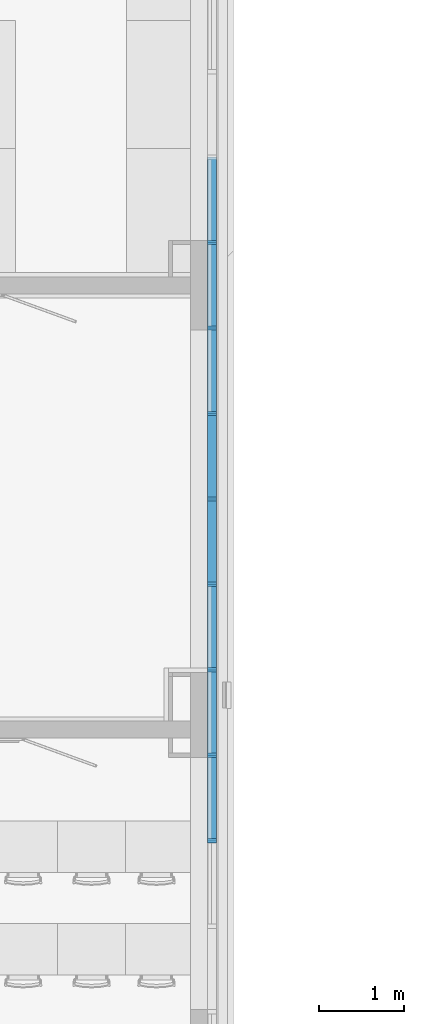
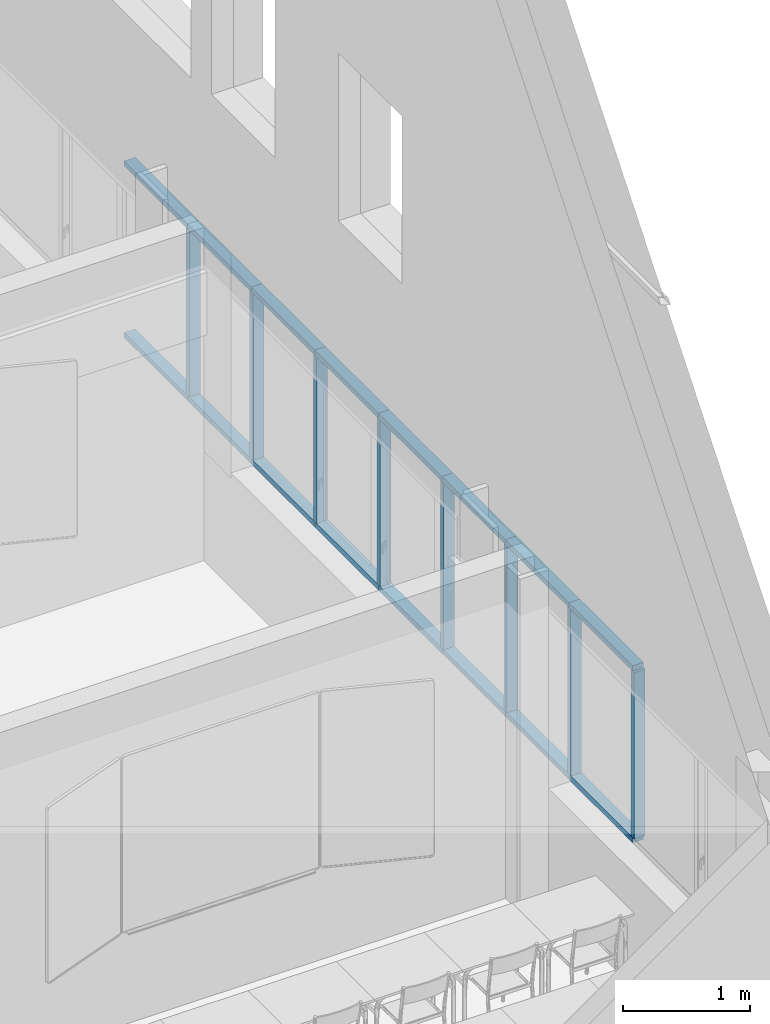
# One storey, part 16 of 137: 24 members, 1 element without a shape of its own.
"""IFC2X3 building model written with IfcOpenShell, lengths in centimetres."""

from ifc_helpers import new_model, entity, si_unit, converted_unit, derived_unit, direction, frame, frame_2d, origin, origin_2d_with_axis, place, context, subcontext, project, spatial, rectangle, extrude, material, type_object, element, aggregate, save


model = new_model("IFC2X3")

# Units and contexts
model_context = context("Model", 3, precision=0.001, world=origin(), true_north=direction((6.12303176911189e-17, 1.0)))
body_context = subcontext(model_context, "Body", "Model", "MODEL_VIEW")
ifc_project = project(units=[si_unit("LENGTHUNIT", "METRE", prefix="CENTI"), si_unit("AREAUNIT", "SQUARE_METRE"), si_unit("VOLUMEUNIT", "CUBIC_METRE"), converted_unit("PLANEANGLEUNIT", "DEGREE", entity("IfcRatioMeasure", 0.0174532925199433), si_unit("PLANEANGLEUNIT", "RADIAN"), dimensions=[0, 0, 0, 0, 0, 0, 0]), si_unit("MASSUNIT", "GRAM", prefix="KILO"), si_unit("TIMEUNIT", "SECOND"), si_unit("FREQUENCYUNIT", "HERTZ"), si_unit("THERMODYNAMICTEMPERATUREUNIT", "DEGREE_CELSIUS"), derived_unit("THERMALTRANSMITTANCEUNIT", [(si_unit("MASSUNIT", "GRAM", prefix="KILO"), 1), (si_unit("THERMODYNAMICTEMPERATUREUNIT", "KELVIN"), -1), (si_unit("TIMEUNIT", "SECOND"), -3)]), derived_unit("VOLUMETRICFLOWRATEUNIT", [(si_unit("LENGTHUNIT", "METRE"), 3), (si_unit("TIMEUNIT", "SECOND"), -1)]), si_unit("ELECTRICCURRENTUNIT", "AMPERE"), si_unit("ELECTRICVOLTAGEUNIT", "VOLT"), si_unit("POWERUNIT", "WATT"), si_unit("FORCEUNIT", "NEWTON", prefix="KILO"), si_unit("ILLUMINANCEUNIT", "LUX"), si_unit("LUMINOUSFLUXUNIT", "LUMEN"), si_unit("LUMINOUSINTENSITYUNIT", "CANDELA"), derived_unit("USERDEFINED", [(si_unit("MASSUNIT", "GRAM", prefix="KILO"), -1), (si_unit("LENGTHUNIT", "METRE"), -2), (si_unit("TIMEUNIT", "SECOND"), 3), (si_unit("LUMINOUSFLUXUNIT", "LUMEN"), 1)]), derived_unit("LINEARVELOCITYUNIT", [(si_unit("LENGTHUNIT", "METRE"), 1), (si_unit("TIMEUNIT", "SECOND"), -1)]), si_unit("PRESSUREUNIT", "PASCAL"), derived_unit("USERDEFINED", [(si_unit("LENGTHUNIT", "METRE"), -2), (si_unit("MASSUNIT", "GRAM", prefix="KILO"), 1), (si_unit("TIMEUNIT", "SECOND"), -2)])], contexts=[model_context])

# Site, building, storey
site_placement = place(None, frame((8.62739174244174, -249.285249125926, 0.0)))
site = spatial("IfcSite", under=ifc_project, at=site_placement, Name="Default", CompositionType="ELEMENT")
building_placement = place(site_placement, origin())
building = spatial("IfcBuilding", under=site, at=building_placement, CompositionType="ELEMENT")
storey_placement = place(building_placement, origin())
storey = spatial("IfcBuildingStorey", under=building, at=storey_placement, Name="RDC", CompositionType="ELEMENT", Elevation=-8.82465566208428e-11)

# Curtain wall, members
curtain_wall_type = type_object("IfcCurtainWallType", Name="Mur-rideau:Simple panneau", PredefinedType="NOTDEFINED")
curtain_wall_placement = place(storey_placement, origin())
curtain_wall = element("IfcCurtainWall", 1, at=curtain_wall_placement, inside=storey, type_object=curtain_wall_type, Name="Mur-rideau:Simple panneau", ObjectType="Mur-rideau:Simple panneau")
ifc_material = material(Name="Plastique, blanc opaque")
member_1_placement = place(curtain_wall_placement, origin())
member_1 = element("IfcMember", 2, at=member_1_placement, material=ifc_material, Name="Mur-rideau:Simple panneau", ObjectType="Mur-rideau:Simple panneau", context=body_context, shape_type="SweptSolid", body=[
    extrude(rectangle(XDim=5.0, YDim=9.99999999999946, at=frame_2d((2.70894418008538e-14, 0.0), x_axis=(1.0, 0.0))), frame((4003.90482781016, 6154.9802081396, 277.500000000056), z_axis=(0.0, 1.0, 0.0), x_axis=(0.0, 0.0, -1.0)), (0.0, 0.0, 1.0), 99.9999999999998),
])
member_2_placement = place(curtain_wall_placement, origin())
member_2 = element("IfcMember", 3, at=member_2_placement, material=ifc_material, Name="Mur-rideau:Simple panneau", ObjectType="Mur-rideau:Simple panneau", context=body_context, shape_type="SweptSolid", body=[
    extrude(rectangle(XDim=5.0, YDim=9.99999999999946, at=frame_2d((2.70894418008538e-14, 0.0), x_axis=(1.0, 0.0))), frame((4003.90482781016, 6054.9802081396, 277.500000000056), z_axis=(0.0, 1.0, 0.0), x_axis=(0.0, 0.0, -1.0)), (0.0, 0.0, 1.0), 99.9999999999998),
])
member_3_placement = place(curtain_wall_placement, origin())
member_3 = element("IfcMember", 4, at=member_3_placement, material=ifc_material, Name="Mur-rideau:Simple panneau", ObjectType="Mur-rideau:Simple panneau", context=body_context, shape_type="SweptSolid", body=[
    extrude(rectangle(XDim=5.0, YDim=9.99999999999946, at=frame_2d((2.70894418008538e-14, 0.0), x_axis=(1.0, 0.0))), frame((4003.90482781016, 5954.9802081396, 277.500000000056), z_axis=(0.0, 1.0, 0.0), x_axis=(0.0, 0.0, -1.0)), (0.0, 0.0, 1.0), 99.9999999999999),
])
member_4_placement = place(curtain_wall_placement, origin())
member_4 = element("IfcMember", 5, at=member_4_placement, material=ifc_material, Name="Mur-rideau:Simple panneau", ObjectType="Mur-rideau:Simple panneau", context=body_context, shape_type="SweptSolid", body=[
    extrude(rectangle(XDim=5.0, YDim=9.99999999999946, at=frame_2d((2.70894418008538e-14, 0.0), x_axis=(1.0, 0.0))), frame((4003.90482781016, 5854.9802081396, 277.500000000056), z_axis=(0.0, 1.0, 0.0), x_axis=(0.0, 0.0, -1.0)), (0.0, 0.0, 1.0), 99.9999999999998),
])
member_5_placement = place(curtain_wall_placement, origin())
member_5 = element("IfcMember", 6, at=member_5_placement, material=ifc_material, Name="Mur-rideau:Simple panneau", ObjectType="Mur-rideau:Simple panneau", context=body_context, shape_type="SweptSolid", body=[
    extrude(rectangle(XDim=5.0, YDim=9.99999999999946, at=frame_2d((2.70894418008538e-14, 0.0), x_axis=(1.0, 0.0))), frame((4003.90482781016, 5754.9802081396, 277.500000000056), z_axis=(0.0, 1.0, 0.0), x_axis=(0.0, 0.0, -1.0)), (0.0, 0.0, 1.0), 99.9999999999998),
])
member_6_placement = place(curtain_wall_placement, origin())
member_6 = element("IfcMember", 7, at=member_6_placement, material=ifc_material, Name="Mur-rideau:Simple panneau", ObjectType="Mur-rideau:Simple panneau", context=body_context, shape_type="SweptSolid", body=[
    extrude(rectangle(XDim=5.0, YDim=9.99999999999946, at=frame_2d((2.70894418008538e-14, 0.0), x_axis=(1.0, 0.0))), frame((4003.90482781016, 5654.9802081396, 277.500000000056), z_axis=(0.0, 1.0, 0.0), x_axis=(0.0, 0.0, -1.0)), (0.0, 0.0, 1.0), 99.9999999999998),
])
member_7_placement = place(curtain_wall_placement, origin())
member_7 = element("IfcMember", 8, at=member_7_placement, material=ifc_material, Name="Mur-rideau:Simple panneau", ObjectType="Mur-rideau:Simple panneau", context=body_context, shape_type="SweptSolid", body=[
    extrude(rectangle(XDim=5.0, YDim=9.99999999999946, at=frame_2d((2.70894418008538e-14, 0.0), x_axis=(1.0, 0.0))), frame((4003.90482781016, 5554.9802081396, 277.500000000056), z_axis=(0.0, 1.0, 0.0), x_axis=(0.0, 0.0, -1.0)), (0.0, 0.0, 1.0), 99.9999999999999),
])
member_8_placement = place(curtain_wall_placement, origin())
member_8 = element("IfcMember", 9, at=member_8_placement, material=ifc_material, Name="Mur-rideau:Simple panneau", ObjectType="Mur-rideau:Simple panneau", context=body_context, shape_type="SweptSolid", body=[
    extrude(rectangle(XDim=5.0, YDim=9.99999999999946, at=frame_2d((2.70894418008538e-14, 0.0), x_axis=(1.0, 0.0))), frame((4003.90482781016, 5454.9802081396, 277.500000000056), z_axis=(0.0, 1.0, 0.0), x_axis=(0.0, 0.0, -1.0)), (0.0, 0.0, 1.0), 99.9999999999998),
])
member_9_placement = place(curtain_wall_placement, origin())
member_9 = element("IfcMember", 10, at=member_9_placement, material=ifc_material, Name="Mur-rideau:Simple panneau", ObjectType="Mur-rideau:Simple panneau", context=body_context, shape_type="SweptSolid", body=[
    extrude(rectangle(XDim=9.99999999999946, YDim=5.0000000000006, at=origin_2d_with_axis()), frame((4003.90482781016, 6154.9802081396, 115.0), z_axis=(0.0, 0.0, 1.0), x_axis=(-1.0, 0.0, 0.0)), (0.0, 0.0, 1.0), 160.0),
])
member_10_placement = place(curtain_wall_placement, origin())
member_10 = element("IfcMember", 11, at=member_10_placement, material=ifc_material, Name="Mur-rideau:Simple panneau", ObjectType="Mur-rideau:Simple panneau", context=body_context, shape_type="SweptSolid", body=[
    extrude(rectangle(XDim=9.99999999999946, YDim=5.0000000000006, at=origin_2d_with_axis()), frame((4003.90482781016, 6054.9802081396, 115.0), z_axis=(0.0, 0.0, 1.0), x_axis=(-1.0, 0.0, 0.0)), (0.0, 0.0, 1.0), 160.0),
])
member_11_placement = place(curtain_wall_placement, origin())
member_11 = element("IfcMember", 12, at=member_11_placement, material=ifc_material, Name="Mur-rideau:Simple panneau", ObjectType="Mur-rideau:Simple panneau", context=body_context, shape_type="SweptSolid", body=[
    extrude(rectangle(XDim=9.99999999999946, YDim=5.0000000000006, at=origin_2d_with_axis()), frame((4003.90482781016, 5954.9802081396, 115.0), z_axis=(0.0, 0.0, 1.0), x_axis=(-1.0, 0.0, 0.0)), (0.0, 0.0, 1.0), 160.0),
])
member_12_placement = place(curtain_wall_placement, origin())
member_12 = element("IfcMember", 13, at=member_12_placement, material=ifc_material, Name="Mur-rideau:Simple panneau", ObjectType="Mur-rideau:Simple panneau", context=body_context, shape_type="SweptSolid", body=[
    extrude(rectangle(XDim=9.99999999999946, YDim=5.0000000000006, at=origin_2d_with_axis()), frame((4003.90482781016, 5854.9802081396, 115.0), z_axis=(0.0, 0.0, 1.0), x_axis=(-1.0, 0.0, 0.0)), (0.0, 0.0, 1.0), 160.0),
])
member_13_placement = place(curtain_wall_placement, origin())
member_13 = element("IfcMember", 14, at=member_13_placement, material=ifc_material, Name="Mur-rideau:Simple panneau", ObjectType="Mur-rideau:Simple panneau", context=body_context, shape_type="SweptSolid", body=[
    extrude(rectangle(XDim=9.99999999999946, YDim=5.0000000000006, at=origin_2d_with_axis()), frame((4003.90482781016, 5754.9802081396, 115.0), z_axis=(0.0, 0.0, 1.0), x_axis=(-1.0, 0.0, 0.0)), (0.0, 0.0, 1.0), 160.0),
])
member_14_placement = place(curtain_wall_placement, origin())
member_14 = element("IfcMember", 15, at=member_14_placement, material=ifc_material, Name="Mur-rideau:Simple panneau", ObjectType="Mur-rideau:Simple panneau", context=body_context, shape_type="SweptSolid", body=[
    extrude(rectangle(XDim=9.99999999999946, YDim=5.0000000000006, at=origin_2d_with_axis()), frame((4003.90482781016, 5654.9802081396, 115.0), z_axis=(0.0, 0.0, 1.0), x_axis=(-1.0, 0.0, 0.0)), (0.0, 0.0, 1.0), 160.0),
])
member_15_placement = place(curtain_wall_placement, origin())
member_15 = element("IfcMember", 16, at=member_15_placement, material=ifc_material, Name="Mur-rideau:Simple panneau", ObjectType="Mur-rideau:Simple panneau", context=body_context, shape_type="SweptSolid", body=[
    extrude(rectangle(XDim=9.99999999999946, YDim=5.0000000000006, at=frame_2d((8.66418048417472e-13, 0.0), x_axis=(1.0, 0.0))), frame((4003.90482781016, 5554.9802081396, 115.0), z_axis=(0.0, 0.0, 1.0), x_axis=(-1.0, 0.0, 0.0)), (0.0, 0.0, 1.0), 160.0),
])
member_16_placement = place(curtain_wall_placement, origin())
member_16 = element("IfcMember", 17, at=member_16_placement, material=ifc_material, Name="Mur-rideau:Simple panneau", ObjectType="Mur-rideau:Simple panneau", context=body_context, shape_type="SweptSolid", body=[
    extrude(rectangle(XDim=9.99999999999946, YDim=5.0000000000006, at=frame_2d((8.66418048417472e-13, 0.0), x_axis=(1.0, 0.0))), frame((4003.90482781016, 5454.9802081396, 115.0), z_axis=(0.0, 0.0, 1.0), x_axis=(-1.0, 0.0, 0.0)), (0.0, 0.0, 1.0), 160.0),
])
member_17_placement = place(curtain_wall_placement, origin())
member_17 = element("IfcMember", 18, at=member_17_placement, material=ifc_material, Name="Mur-rideau:Simple panneau", ObjectType="Mur-rideau:Simple panneau", context=body_context, shape_type="SweptSolid", body=[
    extrude(rectangle(XDim=5.0, YDim=9.99999999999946, at=origin_2d_with_axis()), frame((4003.90482781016, 5554.9802081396, 112.500000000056), z_axis=(0.0, -1.0, 0.0), x_axis=(0.0, 0.0, -1.0)), (0.0, 0.0, 1.0), 99.9999999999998),
])
member_18_placement = place(curtain_wall_placement, origin())
member_18 = element("IfcMember", 19, at=member_18_placement, material=ifc_material, Name="Mur-rideau:Simple panneau", ObjectType="Mur-rideau:Simple panneau", context=body_context, shape_type="SweptSolid", body=[
    extrude(rectangle(XDim=5.0, YDim=9.99999999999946, at=origin_2d_with_axis()), frame((4003.90482781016, 5654.9802081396, 112.500000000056), z_axis=(0.0, -1.0, 0.0), x_axis=(0.0, 0.0, -1.0)), (0.0, 0.0, 1.0), 99.9999999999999),
])
member_19_placement = place(curtain_wall_placement, origin())
member_19 = element("IfcMember", 20, at=member_19_placement, material=ifc_material, Name="Mur-rideau:Simple panneau", ObjectType="Mur-rideau:Simple panneau", context=body_context, shape_type="SweptSolid", body=[
    extrude(rectangle(XDim=5.0, YDim=9.99999999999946, at=origin_2d_with_axis()), frame((4003.90482781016, 5754.9802081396, 112.500000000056), z_axis=(0.0, -1.0, 0.0), x_axis=(0.0, 0.0, -1.0)), (0.0, 0.0, 1.0), 99.9999999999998),
])
member_20_placement = place(curtain_wall_placement, origin())
member_20 = element("IfcMember", 21, at=member_20_placement, material=ifc_material, Name="Mur-rideau:Simple panneau", ObjectType="Mur-rideau:Simple panneau", context=body_context, shape_type="SweptSolid", body=[
    extrude(rectangle(XDim=5.0, YDim=9.99999999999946, at=origin_2d_with_axis()), frame((4003.90482781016, 5854.9802081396, 112.500000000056), z_axis=(0.0, -1.0, 0.0), x_axis=(0.0, 0.0, -1.0)), (0.0, 0.0, 1.0), 99.9999999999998),
])
member_21_placement = place(curtain_wall_placement, origin())
member_21 = element("IfcMember", 22, at=member_21_placement, material=ifc_material, Name="Mur-rideau:Simple panneau", ObjectType="Mur-rideau:Simple panneau", context=body_context, shape_type="SweptSolid", body=[
    extrude(rectangle(XDim=5.0, YDim=9.99999999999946, at=origin_2d_with_axis()), frame((4003.90482781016, 5954.9802081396, 112.500000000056), z_axis=(0.0, -1.0, 0.0), x_axis=(0.0, 0.0, -1.0)), (0.0, 0.0, 1.0), 99.9999999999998),
])
member_22_placement = place(curtain_wall_placement, origin())
member_22 = element("IfcMember", 23, at=member_22_placement, material=ifc_material, Name="Mur-rideau:Simple panneau", ObjectType="Mur-rideau:Simple panneau", context=body_context, shape_type="SweptSolid", body=[
    extrude(rectangle(XDim=5.0, YDim=9.99999999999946, at=origin_2d_with_axis()), frame((4003.90482781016, 6054.9802081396, 112.500000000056), z_axis=(0.0, -1.0, 0.0), x_axis=(0.0, 0.0, -1.0)), (0.0, 0.0, 1.0), 99.9999999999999),
])
member_23_placement = place(curtain_wall_placement, origin())
member_23 = element("IfcMember", 24, at=member_23_placement, material=ifc_material, Name="Mur-rideau:Simple panneau", ObjectType="Mur-rideau:Simple panneau", context=body_context, shape_type="SweptSolid", body=[
    extrude(rectangle(XDim=5.0, YDim=9.99999999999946, at=origin_2d_with_axis()), frame((4003.90482781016, 6154.9802081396, 112.500000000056), z_axis=(0.0, -1.0, 0.0), x_axis=(0.0, 0.0, -1.0)), (0.0, 0.0, 1.0), 99.9999999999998),
])
member_24_placement = place(curtain_wall_placement, origin())
member_24 = element("IfcMember", 25, at=member_24_placement, material=ifc_material, Name="Mur-rideau:Simple panneau", ObjectType="Mur-rideau:Simple panneau", context=body_context, shape_type="SweptSolid", body=[
    extrude(rectangle(XDim=5.0, YDim=9.99999999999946, at=origin_2d_with_axis()), frame((4003.90482781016, 6254.9802081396, 112.500000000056), z_axis=(0.0, -1.0, 0.0), x_axis=(0.0, 0.0, -1.0)), (0.0, 0.0, 1.0), 99.9999999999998),
])
aggregate(curtain_wall, [member_1, member_2, member_3, member_4, member_5, member_6, member_7, member_8, member_9, member_10, member_11, member_12, member_13, member_14, member_15, member_16, member_17, member_18, member_19, member_20, member_21, member_22, member_23, member_24])

save(model, "model.ifc")
